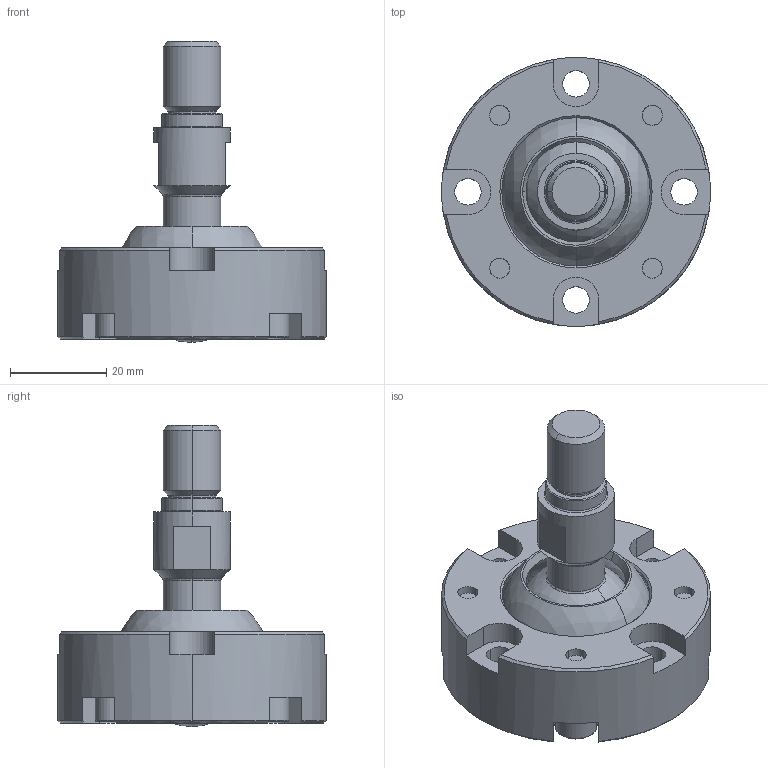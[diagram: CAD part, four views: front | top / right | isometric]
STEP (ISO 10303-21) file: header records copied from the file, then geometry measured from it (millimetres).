
FILE_DESCRIPTION (( 'STEP AP203' ), '1' );
FILE_NAME ('SRJ016CP.STEP', '2023-03-30T08:38:07', ( '' ), ( '' ), 'SwSTEP 2.0', 'SolidWorks 2023', '' );
FILE_SCHEMA (( 'CONFIG_CONTROL_DESIGN' ));
Length unit declared in the file: millimetre
Products named in the file (1): SRJ016CP
Bounding box: 56 x 56 x 62.7 mm (x, y, z)
Volume: 46299.2 mm3; surface area: 21095.9 mm2
Topology: 7 solids, 7 shells, 239 faces, 581 edges, 357 vertices
Faces by surface type: plane 102, cylinder 66, cone 39, torus 22, sphere 10
Entity records: 6982 total; most frequent: DIRECTION 1307, CARTESIAN_POINT 1194, ORIENTED_EDGE 1116, EDGE_CURVE 558, AXIS2_PLACEMENT_3D 525, VERTEX_POINT 348, CIRCLE 285, EDGE_LOOP 274
